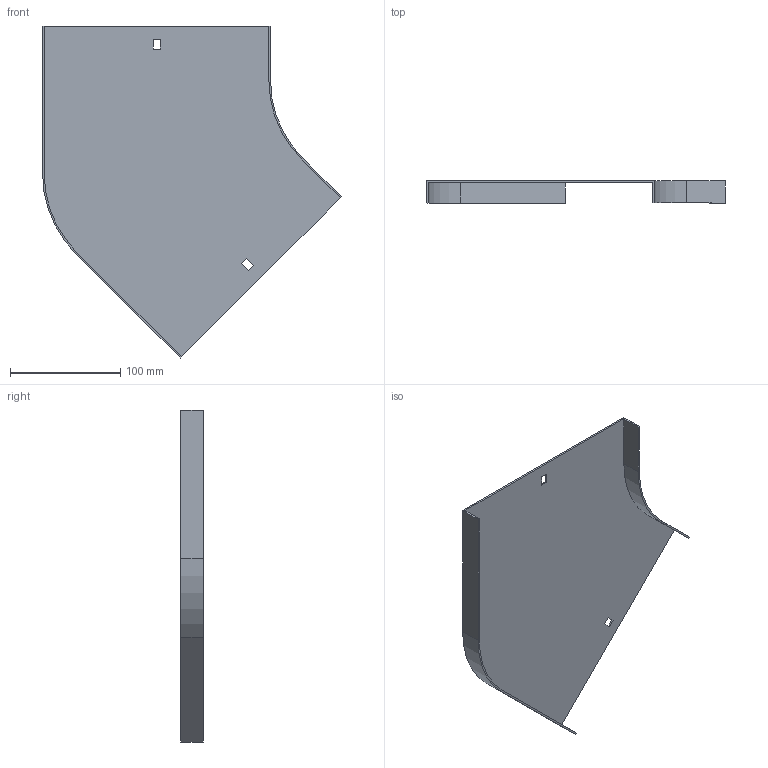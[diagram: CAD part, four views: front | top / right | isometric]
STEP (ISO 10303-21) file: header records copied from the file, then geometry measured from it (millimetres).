
FILE_DESCRIPTION (( 'STEP AP214' ), '1' );
FILE_NAME ('11N1R200.step', '2025-02-21T09:21:02', ( '' ), ( '' ), 'SwSTEP 2.0', 'SolidWorks 2023', '' );
FILE_SCHEMA (( 'AUTOMOTIVE_DESIGN' ));
Length unit declared in the file: millimetre
Products named in the file (1): 11N1R200
Bounding box: 271.21 x 20 x 301.38 mm (x, y, z)
Volume: 97413.6 mm3; surface area: 131498.9 mm2
Topology: 1 solids, 1 shells, 26 faces, 72 edges, 48 vertices
Faces by surface type: plane 22, cylinder 4
Entity records: 855 total; most frequent: CARTESIAN_POINT 147, ORIENTED_EDGE 144, DIRECTION 134, EDGE_CURVE 72, LINE 64, VECTOR 64, VERTEX_POINT 48, AXIS2_PLACEMENT_3D 35
